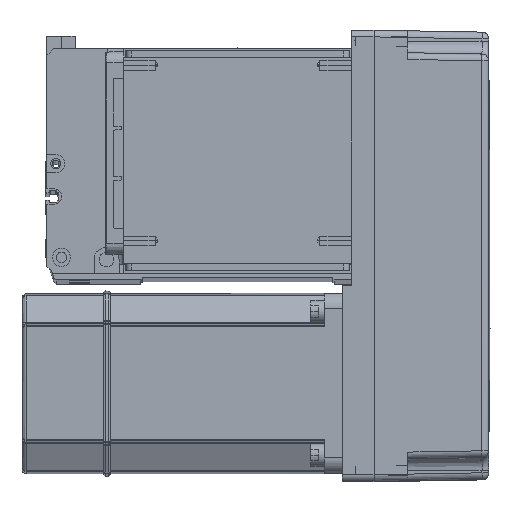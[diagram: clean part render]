
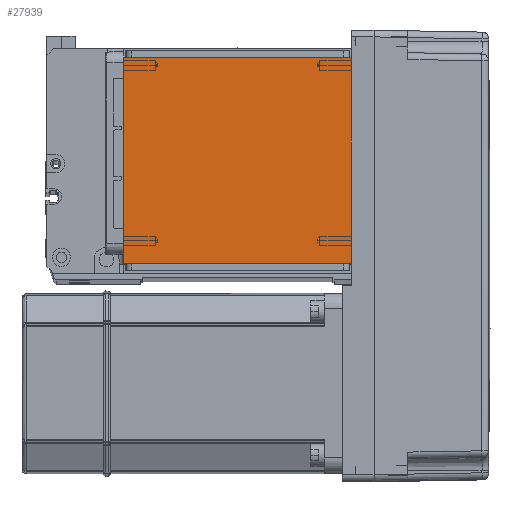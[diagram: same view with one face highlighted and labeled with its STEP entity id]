
A CAD part, top view. The second image highlights one B-rep face of the part: STEP entity #27939.
In plain terms, the highlighted planar face has unit normal (0, 0, 1).
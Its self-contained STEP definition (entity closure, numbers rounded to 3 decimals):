
#3005 = VERTEX_POINT ( 'NONE', #31440 ) ;
#4099 = DIRECTION ( 'NONE',  ( 0., -1., 0. ) ) ;
#4712 = LINE ( 'NONE', #6351, #27139 ) ;
#5974 = EDGE_CURVE ( 'NONE', #3005, #19706, #25295, .T. ) ;
#6351 = CARTESIAN_POINT ( 'NONE',  ( -70.004, 111.5, 115. ) ) ;
#7341 = VECTOR ( 'NONE', #4099, 1000. ) ;
#8768 = CARTESIAN_POINT ( 'NONE',  ( -50.5, 122., 115. ) ) ;
#9583 = EDGE_CURVE ( 'NONE', #3005, #38468, #56293, .T. ) ;
#11025 = CARTESIAN_POINT ( 'NONE',  ( -50.5, 111.5, 115. ) ) ;
#12250 = CARTESIAN_POINT ( 'NONE',  ( 0., 0., 115. ) ) ;
#13779 = EDGE_LOOP ( 'NONE', ( #45536, #37554, #21658, #53298 ) ) ;
#15432 = VECTOR ( 'NONE', #26852, 1000. ) ;
#16387 = CARTESIAN_POINT ( 'NONE',  ( 50.5, 111.5, 115. ) ) ;
#17194 = AXIS2_PLACEMENT_3D ( 'NONE', #12250, #56875, #48303 ) ;
#19280 = LINE ( 'NONE', #8768, #7341 ) ;
#19706 = VERTEX_POINT ( 'NONE', #53245 ) ;
#21658 = ORIENTED_EDGE ( 'NONE', *, *, #5974, .F. ) ;
#25295 = LINE ( 'NONE', #53628, #15432 ) ;
#26199 = PLANE ( 'NONE',  #17194 ) ;
#26852 = DIRECTION ( 'NONE',  ( -1., 0., 0. ) ) ;
#26924 = DIRECTION ( 'NONE',  ( 0., 1., 0. ) ) ;
#27139 = VECTOR ( 'NONE', #45943, 1000. ) ;
#27335 = EDGE_CURVE ( 'NONE', #28801, #38468, #4712, .T. ) ;
#27939 = ADVANCED_FACE ( 'NONE', ( #56387 ), #26199, .T. ) ;
#28801 = VERTEX_POINT ( 'NONE', #11025 ) ;
#31440 = CARTESIAN_POINT ( 'NONE',  ( 50.5, 20., 115. ) ) ;
#32412 = EDGE_CURVE ( 'NONE', #28801, #19706, #19280, .T. ) ;
#37423 = VECTOR ( 'NONE', #26924, 1000. ) ;
#37554 = ORIENTED_EDGE ( 'NONE', *, *, #32412, .T. ) ;
#38468 = VERTEX_POINT ( 'NONE', #16387 ) ;
#45536 = ORIENTED_EDGE ( 'NONE', *, *, #27335, .F. ) ;
#45943 = DIRECTION ( 'NONE',  ( 1., 0., 0. ) ) ;
#48303 = DIRECTION ( 'NONE',  ( 1., 0., 0. ) ) ;
#49243 = CARTESIAN_POINT ( 'NONE',  ( 50.5, 122., 115. ) ) ;
#53245 = CARTESIAN_POINT ( 'NONE',  ( -50.5, 20., 115. ) ) ;
#53298 = ORIENTED_EDGE ( 'NONE', *, *, #9583, .T. ) ;
#53628 = CARTESIAN_POINT ( 'NONE',  ( -70.004, 20., 115. ) ) ;
#56293 = LINE ( 'NONE', #49243, #37423 ) ;
#56387 = FACE_OUTER_BOUND ( 'NONE', #13779, .T. ) ;
#56875 = DIRECTION ( 'NONE',  ( 0., 0., 1. ) ) ;
